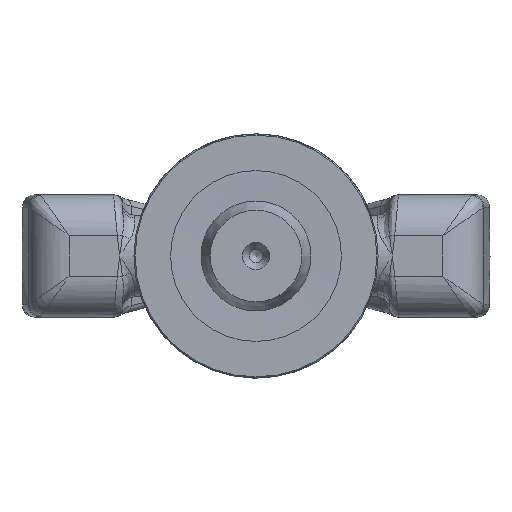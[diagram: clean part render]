
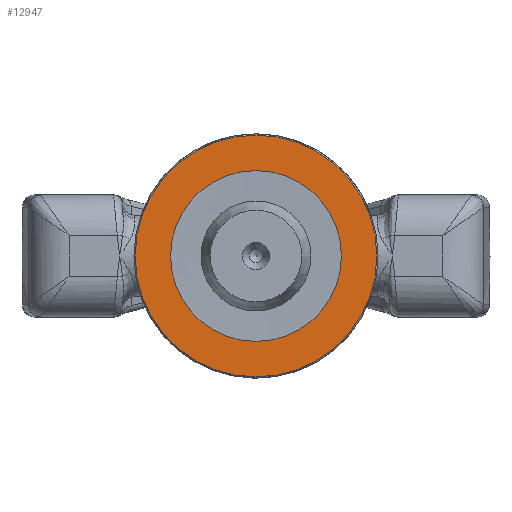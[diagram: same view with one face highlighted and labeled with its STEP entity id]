
A CAD part, front view. The second image highlights one B-rep face of the part: STEP entity #12947.
In plain terms, the highlighted planar face has unit normal (0, -1, 0) as drawn and (0, 0, -1) by its records, which use the part's own axes.
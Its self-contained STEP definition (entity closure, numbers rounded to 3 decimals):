
#133=FACE_BOUND('',#3904,.T.);
#2442=PLANE('',#13908);
#3092=FACE_OUTER_BOUND('',#3903,.T.);
#3903=EDGE_LOOP('',(#11020));
#3904=EDGE_LOOP('',(#11021));
#4430=CIRCLE('',#13905,29.7);
#4432=CIRCLE('',#13909,21.);
#6042=VERTEX_POINT('',#40136);
#6044=VERTEX_POINT('',#40142);
#7784=EDGE_CURVE('',#6042,#6042,#4430,.T.);
#7786=EDGE_CURVE('',#6044,#6044,#4432,.T.);
#11020=ORIENTED_EDGE('',*,*,#7784,.F.);
#11021=ORIENTED_EDGE('',*,*,#7786,.F.);
#12947=ADVANCED_FACE('',(#3092,#133),#2442,.F.);
#13905=AXIS2_PLACEMENT_3D('',#40137,#15952,#15953);
#13908=AXIS2_PLACEMENT_3D('',#40141,#15958,#15959);
#13909=AXIS2_PLACEMENT_3D('',#40143,#15960,#15961);
#15952=DIRECTION('center_axis',(0.,0.,1.));
#15953=DIRECTION('ref_axis',(-1.,0.,0.));
#15958=DIRECTION('center_axis',(0.,0.,1.));
#15959=DIRECTION('ref_axis',(1.,0.,0.));
#15960=DIRECTION('center_axis',(0.,0.,-1.));
#15961=DIRECTION('ref_axis',(-1.,0.,0.));
#40136=CARTESIAN_POINT('',(29.7,0.,0.));
#40137=CARTESIAN_POINT('Origin',(0.,0.,0.));
#40141=CARTESIAN_POINT('Origin',(0.,0.,0.));
#40142=CARTESIAN_POINT('',(21.,0.,0.));
#40143=CARTESIAN_POINT('Origin',(0.,0.,0.));
